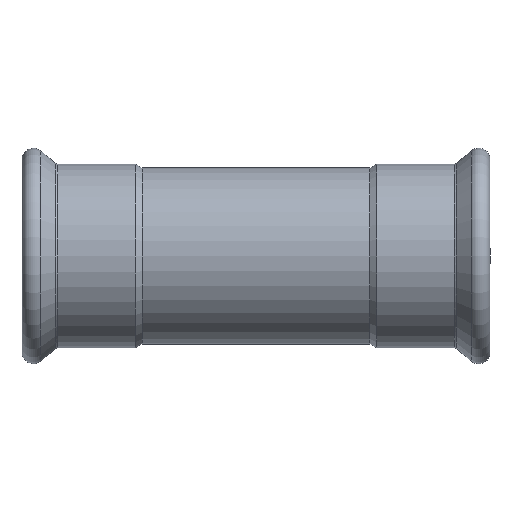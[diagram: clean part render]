
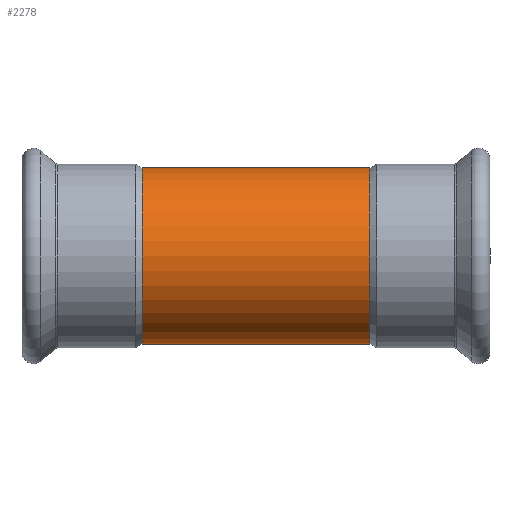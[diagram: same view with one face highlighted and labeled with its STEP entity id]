
A CAD part, front view. The second image highlights one B-rep face of the part: STEP entity #2278.
In plain terms, the highlighted cylindrical face has radius 54 mm (diameter 108 mm), a full revolution.
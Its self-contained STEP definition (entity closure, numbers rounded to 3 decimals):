
#2087=CARTESIAN_POINT('',(0.,46.195,27.964));
#2088=VERTEX_POINT('',#2087);
#2162=CARTESIAN_POINT('',(0.,46.195,27.964));
#2163=CARTESIAN_POINT('',(1.102,46.195,27.964));
#2164=CARTESIAN_POINT('',(3.307,46.269,27.843));
#2165=CARTESIAN_POINT('',(6.556,46.592,27.302));
#2166=CARTESIAN_POINT('',(9.708,47.104,26.413));
#2167=CARTESIAN_POINT('',(13.692,47.984,24.805));
#2168=CARTESIAN_POINT('',(16.902,48.956,22.847));
#2169=CARTESIAN_POINT('',(19.348,49.817,20.85));
#2170=CARTESIAN_POINT('',(20.89,50.388,19.443));
#2171=CARTESIAN_POINT('',(22.912,51.193,17.271));
#2172=CARTESIAN_POINT('',(24.746,51.988,14.695));
#2173=CARTESIAN_POINT('',(26.098,52.603,12.253));
#2174=CARTESIAN_POINT('',(27.266,53.15,9.702));
#2175=CARTESIAN_POINT('',(28.357,53.68,6.345));
#2176=CARTESIAN_POINT('',(29.028,54.014,2.137));
#2177=CARTESIAN_POINT('',(29.028,54.014,-2.132));
#2178=CARTESIAN_POINT('',(28.472,53.737,-5.634));
#2179=CARTESIAN_POINT('',(27.703,53.362,-8.359));
#2180=CARTESIAN_POINT('',(26.733,52.898,-10.996));
#2181=CARTESIAN_POINT('',(25.147,52.162,-14.137));
#2182=CARTESIAN_POINT('',(23.101,51.275,-17.003));
#2183=CARTESIAN_POINT('',(21.243,50.528,-19.073));
#2184=CARTESIAN_POINT('',(18.899,49.637,-21.33));
#2185=CARTESIAN_POINT('',(16.421,48.803,-23.146));
#2186=CARTESIAN_POINT('',(13.949,48.109,-24.53));
#2187=CARTESIAN_POINT('',(11.411,47.452,-25.796));
#2188=CARTESIAN_POINT('',(8.208,46.807,-26.936));
#2189=CARTESIAN_POINT('',(3.912,46.305,-27.784));
#2190=CARTESIAN_POINT('',(-0.008,46.129,-28.073));
#2191=CARTESIAN_POINT('',(-3.682,46.295,-27.801));
#2192=CARTESIAN_POINT('',(-6.554,46.611,-27.268));
#2193=CARTESIAN_POINT('',(-8.669,46.932,-26.713));
#2194=CARTESIAN_POINT('',(-10.714,47.324,-26.014));
#2195=CARTESIAN_POINT('',(-13.347,47.928,-24.895));
#2196=CARTESIAN_POINT('',(-16.464,48.811,-23.145));
#2197=CARTESIAN_POINT('',(-19.254,49.772,-20.99));
#2198=CARTESIAN_POINT('',(-21.256,50.533,-19.06));
#2199=CARTESIAN_POINT('',(-23.122,51.284,-16.978));
#2200=CARTESIAN_POINT('',(-24.885,52.049,-14.499));
#2201=CARTESIAN_POINT('',(-26.427,52.754,-11.628));
#2202=CARTESIAN_POINT('',(-27.5,53.263,-9.025));
#2203=CARTESIAN_POINT('',(-28.433,53.717,-5.871));
#2204=CARTESIAN_POINT('',(-29.029,54.014,-2.129));
#2205=CARTESIAN_POINT('',(-29.027,54.013,2.139));
#2206=CARTESIAN_POINT('',(-28.47,53.736,5.641));
#2207=CARTESIAN_POINT('',(-27.7,53.361,8.367));
#2208=CARTESIAN_POINT('',(-26.73,52.896,11.002));
#2209=CARTESIAN_POINT('',(-25.143,52.16,14.144));
#2210=CARTESIAN_POINT('',(-22.891,51.184,17.296));
#2211=CARTESIAN_POINT('',(-20.523,50.242,19.837));
#2212=CARTESIAN_POINT('',(-18.131,49.376,21.899));
#2213=CARTESIAN_POINT('',(-15.506,48.534,23.699));
#2214=CARTESIAN_POINT('',(-12.697,47.764,25.206));
#2215=CARTESIAN_POINT('',(-9.699,47.103,26.416));
#2216=CARTESIAN_POINT('',(-5.512,46.422,27.597));
#2217=CARTESIAN_POINT('',(-2.204,46.195,27.965));
#2218=CARTESIAN_POINT('',(0.,46.195,27.964));
#2219=CARTESIAN_POINT('',(0.,46.195,27.964));
#2220=CARTESIAN_POINT('',(0.,46.195,27.964));
#2221=CARTESIAN_POINT('',(0.,46.195,27.964));
#2222=B_SPLINE_CURVE_WITH_KNOTS('',3,(#2162,#2163,#2164,#2165,#2166,#2167,#2168,#2169,#2170,#2171,#2172,#2173,#2174,#2175,#2176,#2177,#2178,#2179,#2180,#2181,#2182,#2183,#2184,#2185,#2186,#2187,#2188,#2189,#2190,#2191,#2192,#2193,#2194,#2195,#2196,#2197,#2198,#2199,#2200,#2201,#2202,#2203,#2204,#2205,#2206,#2207,#2208,#2209,#2210,#2211,#2212,#2213,#2214,#2215,#2216,#2217,#2218,#2219,#2220,#2221),.UNSPECIFIED.,.T.,.U.,(4,1,1,1,1,1,1,1,1,1,1,1,1,1,1,1,1,1,1,1,1,1,1,1,1,1,1,1,1,1,1,1,1,1,1,1,1,1,1,1,1,1,1,1,1,1,1,1,1,1,1,1,1,1,3,4),(-16.606,-16.309,-16.013,-15.716,-15.42,-14.826,-14.678,-14.53,-14.233,-13.838,-13.64,-13.443,-13.047,-12.652,-12.257,-11.861,-11.664,-11.466,-11.07,-10.675,-10.477,-10.28,-9.753,-9.621,-9.489,-8.962,-8.698,-8.303,-7.907,-7.71,-7.512,-7.314,-7.117,-6.721,-6.326,-6.128,-5.931,-5.535,-5.272,-5.008,-4.744,-4.349,-3.954,-3.558,-3.361,-3.163,-2.768,-2.372,-2.076,-1.779,-1.483,-1.186,-0.89,-0.593,0.0,0.),.UNSPECIFIED.);
#2223=EDGE_CURVE('',#2088,#2088,#2222,.T.);
#2248=CARTESIAN_POINT('',(0.,0.,0.0));
#2249=DIRECTION('',(1.0,0.,0.0));
#2250=DIRECTION('',(0.0,1.0,0.0));
#2251=AXIS2_PLACEMENT_3D('',#2248,#2249,#2250);
#2252=CYLINDRICAL_SURFACE('',#2251,54.);
#2253=CARTESIAN_POINT('',(-69.894,54.0,0.0));
#2254=VERTEX_POINT('',#2253);
#2255=CARTESIAN_POINT('',(-69.894,0.,0.0));
#2256=DIRECTION('',(1.0,0.0,0.0));
#2257=DIRECTION('',(0.0,1.0,0.0));
#2258=AXIS2_PLACEMENT_3D('',#2255,#2256,#2257);
#2259=CIRCLE('',#2258,54.);
#2260=EDGE_CURVE('',#2254,#2254,#2259,.T.);
#2261=ORIENTED_EDGE('',*,*,#2260,.T.);
#2262=EDGE_LOOP('',(#2261));
#2263=FACE_OUTER_BOUND('',#2262,.T.);
#2264=CARTESIAN_POINT('',(69.894,54.,0.0));
#2265=VERTEX_POINT('',#2264);
#2266=CARTESIAN_POINT('',(69.894,0.,0.0));
#2267=DIRECTION('',(1.0,0.0,0.0));
#2268=DIRECTION('',(0.0,1.0,0.0));
#2269=AXIS2_PLACEMENT_3D('',#2266,#2267,#2268);
#2270=CIRCLE('',#2269,54.);
#2271=EDGE_CURVE('',#2265,#2265,#2270,.T.);
#2272=ORIENTED_EDGE('',*,*,#2271,.F.);
#2273=EDGE_LOOP('',(#2272));
#2274=FACE_BOUND('',#2273,.T.);
#2275=ORIENTED_EDGE('',*,*,#2223,.F.);
#2276=EDGE_LOOP('',(#2275));
#2277=FACE_BOUND('',#2276,.T.);
#2278=ADVANCED_FACE('',(#2263,#2274,#2277),#2252,.T.);
